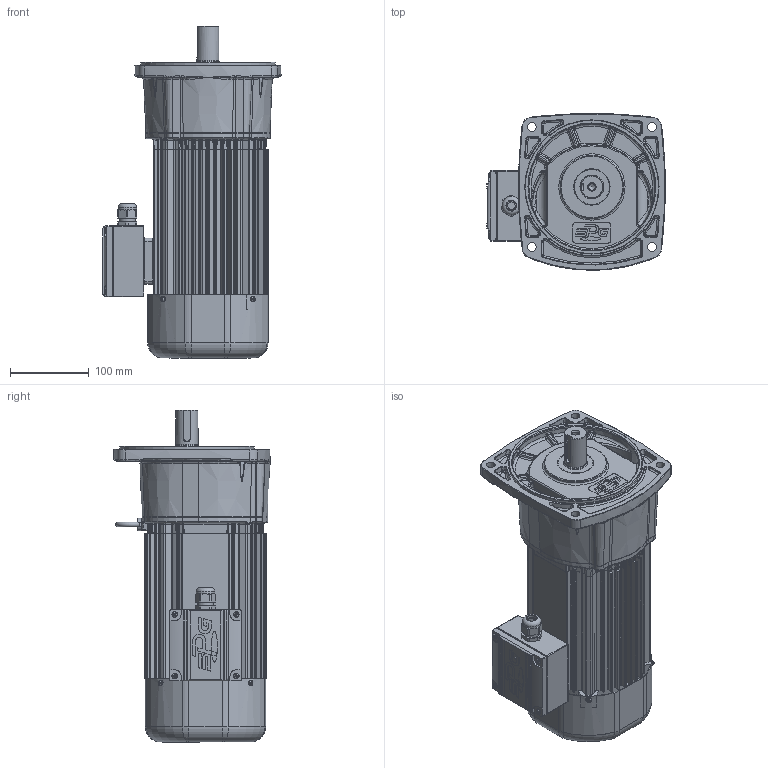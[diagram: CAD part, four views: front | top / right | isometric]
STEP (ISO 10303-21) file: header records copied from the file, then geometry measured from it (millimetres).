
FILE_DESCRIPTION(/* description */ (''),/* implementation_level */ '2;1');
FILE_NAME(/* name */ 'Z:\동력 3D 파일\PAF28_0.75kW_Brake_3D.stp',/* time_stamp */ '2021-11-08T15:36:05+09:00',/* author */ ('jaebok'),/* organization */ (''),/* preprocessor_version */ 'ST-DEVELOPER v18.1',/* originating_system */ 'Autodesk Inventor 2022',/* authorisation */ '');
FILE_SCHEMA (('AUTOMOTIVE_DESIGN { 1 0 10303 214 3 1 1 }'));
Products named in the file (1): 부품14
Bounding box: 225.74 x 198.24 x 420.5 mm (x, y, z)
Volume: 2515168 mm3; surface area: 748697.3 mm2
Topology: 2 solids, 27 shells, 3997 faces, 10310 edges, 6169 vertices
Faces by surface type: plane 1271, bspline 1028, cylinder 1027, torus 340, cone 220, sphere 111
Full cylindrical faces by diameter (mm): 2 x1, 3.25 x1, 3.6 x4, 4 x18, 4.2 x4, 4.917 x4, 5 x18, 5.5 x4, 6 x1, 6.647 x1, 7 x13, 8 x5, 8.376 x1, 8.5 x1, 10 x1, 12.5 x1, 15 x1, 19 x1, 20 x2, 20.6 x1, 21 x2, 23.6 x1, 25 x1, 27 x1, 27.6 x1, 28 x2, 30 x3, 32 x1, 34 x1, 34.2 x1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
Entity records: 162058 total; most frequent: CARTESIAN_POINT 68127, ORIENTED_EDGE 20076, DIRECTION 17350, EDGE_CURVE 10038, AXIS2_PLACEMENT_3D 6930, VERTEX_POINT 6161, EDGE_LOOP 4198, FACE_OUTER_BOUND 3997
